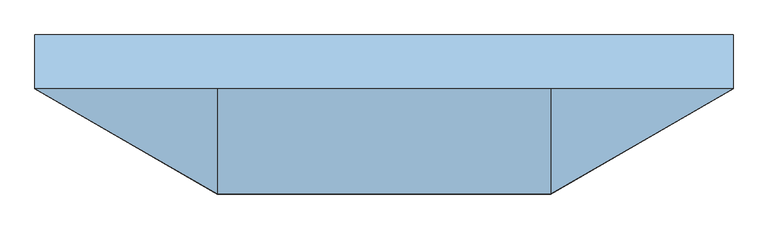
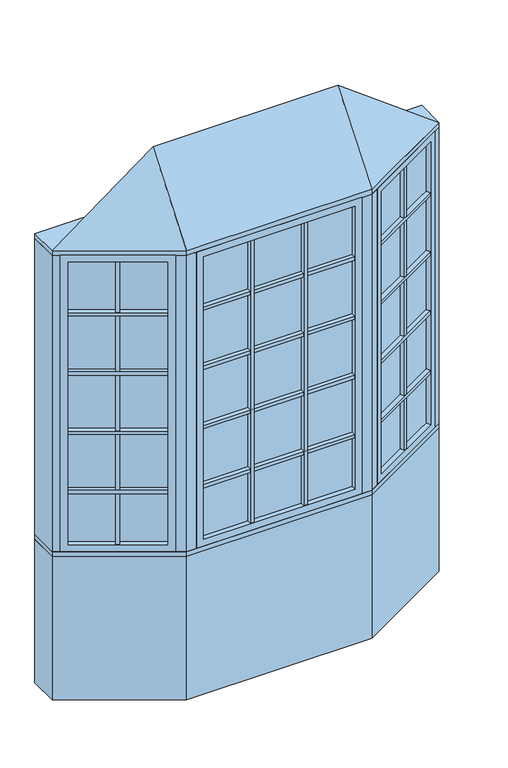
"""IFC4 building model written with IfcOpenShell, lengths in millimetres: window geometry, Pollard_Windows_Tudor Casement Bows and Bays : AML-BAY 30 AFR0516-10-500_GC."""

from ifc_helpers import new_model, si_unit, frame, origin, origin_with_axes, place, context, project, spatial, polyline, outline, extrude, faceted_brep, source, transform, mapped, element, save


def window_4f788b19(model_context):
    return source(origin(), model_context, "Body", "SolidModel", [
        extrude(outline(polyline([(545.7305346, -327.3537343), (534.7305346, -308.3011754), (915.6135794, -88.3982469), (926.6135794, -107.4508058), (545.7305346, -327.3537343)])), frame((0.0, 0.0, 1110.998), z_axis=(0.0, 0.0, 1.0), x_axis=(1.0, 0.0, 0.0)), (0.0, 0.0, 1.0), 18.0),
        extrude(outline(polyline([(532.1905346, -303.9017664), (521.1905346, -284.8492075), (902.0735794, -64.946279), (913.0735794, -83.9988379), (532.1905346, -303.9017664)])), frame((0.0, 0.0, 1110.998), z_axis=(0.0, 0.0, 1.0), x_axis=(1.0, 0.0, 0.0)), (0.0, 0.0, 1.0), 18.0),
        extrude(outline(polyline([(545.7305346, -327.3537343), (534.7305346, -308.3011754), (915.6135794, -88.3982469), (926.6135794, -107.4508058), (545.7305346, -327.3537343)])), frame((0.0, 0.0, 1430.998), z_axis=(0.0, 0.0, 1.0), x_axis=(1.0, 0.0, 0.0)), (0.0, 0.0, 1.0), 18.0),
        extrude(outline(polyline([(532.1905346, -303.9017664), (521.1905346, -284.8492075), (902.0735794, -64.946279), (913.0735794, -83.9988379), (532.1905346, -303.9017664)])), frame((0.0, 0.0, 1430.998), z_axis=(0.0, 0.0, 1.0), x_axis=(1.0, 0.0, 0.0)), (0.0, 0.0, 1.0), 18.0),
        extrude(outline(polyline([(545.7305346, -327.3537343), (534.7305346, -308.3011754), (915.6135794, -88.3982469), (926.6135794, -107.4508058), (545.7305346, -327.3537343)])), frame((0.0, 0.0, 1750.998), z_axis=(0.0, 0.0, 1.0), x_axis=(1.0, 0.0, 0.0)), (0.0, 0.0, 1.0), 18.0),
        extrude(outline(polyline([(532.1905346, -303.9017664), (521.1905346, -284.8492075), (902.0735794, -64.946279), (913.0735794, -83.9988379), (532.1905346, -303.9017664)])), frame((0.0, 0.0, 1750.998), z_axis=(0.0, 0.0, 1.0), x_axis=(1.0, 0.0, 0.0)), (0.0, 0.0, 1.0), 18.0),
        extrude(outline(polyline([(545.7305346, -327.3537343), (534.7305346, -308.3011754), (915.6135794, -88.3982469), (926.6135794, -107.4508058), (545.7305346, -327.3537343)])), frame((0.0, 0.0, 2070.998), z_axis=(0.0, 0.0, 1.0), x_axis=(1.0, 0.0, 0.0)), (0.0, 0.0, 1.0), 18.0),
        extrude(outline(polyline([(532.1905346, -303.9017664), (521.1905346, -284.8492075), (902.0735794, -64.946279), (913.0735794, -83.9988379), (532.1905346, -303.9017664)])), frame((0.0, 0.0, 2070.998), z_axis=(0.0, 0.0, 1.0), x_axis=(1.0, 0.0, 0.0)), (0.0, 0.0, 1.0), 18.0),
        extrude(outline(polyline([(732.9662856, -193.8497112), (743.9662856, -212.9022701), (728.3778284, -221.9022701), (717.3778284, -202.8497112), (732.9662856, -193.8497112)])), frame((0.0, 0.0, 835.8628), z_axis=(0.0, 0.0, 1.0), x_axis=(1.0, 0.0, 0.0)), (0.0, 0.0, 1.0), 1528.2704),
        extrude(outline(polyline([(730.4262856, -189.4503021), (714.8378284, -198.4503021), (703.8378284, -179.3977432), (719.4262856, -170.3977432), (730.4262856, -189.4503021)])), frame((0.0, 0.0, 835.8628), z_axis=(0.0, 0.0, 1.0), x_axis=(1.0, 0.0, 0.0)), (0.0, 0.0, 1.0), 1528.2704),
        extrude(outline(polyline([(926.612102, -82.0482469), (523.7320119, -314.6511754), (521.1920119, -310.2517664), (924.072102, -77.6488379), (926.612102, -82.0482469)])), frame((0.0, 0.0, 823.1628), z_axis=(0.0, 0.0, 1.0), x_axis=(1.0, 0.0, 0.0)), (0.0, 0.0, 1.0), 1553.6704),
        faceted_brep([(915.6135794, -88.3982469, 835.8628), (928.3135794, -110.3952922, 835.8628), (928.3135794, -110.3952922, 2364.1332), (915.6135794, -88.3982469, 2364.1332), (924.072102, -77.6488379, 823.1628), (926.612102, -82.0482469, 823.1628), (926.612102, -82.0482469, 2376.8332), (924.072102, -77.6488379, 2376.8332), (900.3735794, -62.0017926, 835.8628), (913.0735794, -83.9988379, 835.8628), (913.0735794, -83.9988379, 2364.1332), (900.3735794, -62.0017926, 2364.1332), (959.3734073, -92.4628922, 799.998), (931.4334073, -44.0693926, 799.998), (931.4334073, -44.0693926, 2399.998), (959.3734073, -92.4628922, 2399.998), (547.4305346, -330.2982207, 2364.1332), (534.7305346, -308.3011754, 2364.1332), (523.7320119, -314.6511754, 2376.8332), (521.1920119, -310.2517664, 2376.8332), (532.1905346, -303.9017664, 2364.1332), (519.4905346, -281.9047211, 2364.1332), (488.4307067, -299.8371211, 2399.998), (516.3707067, -348.2306207, 2399.998), (547.4305346, -330.2982207, 835.8628), (534.7305346, -308.3011754, 835.8628), (523.7320119, -314.6511754, 823.1628), (521.1920119, -310.2517664, 823.1628), (532.1905346, -303.9017664, 835.8628), (519.4905346, -281.9047211, 835.8628), (488.4307067, -299.8371211, 799.998), (516.3707067, -348.2306207, 799.998)], [[[0, 1, 2, 3]], [[4, 5, 6, 7]], [[8, 9, 10, 11]], [[12, 13, 14, 15]], [[3, 2, 16, 17]], [[7, 6, 18, 19]], [[11, 10, 20, 21]], [[15, 14, 22, 23]], [[17, 16, 24, 25]], [[19, 18, 26, 27]], [[21, 20, 28, 29]], [[23, 22, 30, 31]], [[25, 24, 1, 0]], [[5, 26, 18, 6], [3, 17, 25, 0]], [[27, 26, 5, 4]], [[7, 19, 27, 4], [9, 28, 20, 10]], [[29, 28, 9, 8]], [[13, 30, 22, 14], [11, 21, 29, 8]], [[31, 30, 13, 12]], [[15, 23, 31, 12], [1, 24, 16, 2]]]),
        extrude(outline(polyline([(145.3016788, -347.8306207), (145.3016788, -369.8306207), (127.3016788, -369.8306207), (127.3016788, -347.8306207), (145.3016788, -347.8306207)])), frame((0.0, 0.0, 835.8628), z_axis=(0.0, 0.0, 1.0), x_axis=(1.0, 0.0, 0.0)), (0.0, 0.0, 1.0), 1528.2704),
        extrude(outline(polyline([(145.3016788, -342.7506207), (127.3016788, -342.7506207), (127.3016788, -320.7506207), (145.3016788, -320.7506207), (145.3016788, -342.7506207)])), frame((0.0, 0.0, 835.8628), z_axis=(0.0, 0.0, 1.0), x_axis=(1.0, 0.0, 0.0)), (0.0, 0.0, 1.0), 1528.2704),
        extrude(outline(polyline([(-127.3016788, -347.8306207), (-127.3016788, -369.8306207), (-145.3016788, -369.8306207), (-145.3016788, -347.8306207), (-127.3016788, -347.8306207)])), frame((0.0, 0.0, 835.8628), z_axis=(0.0, 0.0, 1.0), x_axis=(1.0, 0.0, 0.0)), (0.0, 0.0, 1.0), 1528.2704),
        extrude(outline(polyline([(-127.3016788, -342.7506207), (-145.3016788, -342.7506207), (-145.3016788, -320.7506207), (-127.3016788, -320.7506207), (-127.3016788, -342.7506207)])), frame((0.0, 0.0, 835.8628), z_axis=(0.0, 0.0, 1.0), x_axis=(1.0, 0.0, 0.0)), (0.0, 0.0, 1.0), 1528.2704),
        extrude(outline(polyline([(-387.2046365, -369.8306207), (-387.2046365, -347.8306207), (387.2046365, -347.8306207), (387.2046365, -369.8306207), (-387.2046365, -369.8306207)])), frame((0.0, 0.0, 1110.998), z_axis=(0.0, 0.0, 1.0), x_axis=(1.0, 0.0, 0.0)), (0.0, 0.0, 1.0), 18.0),
        extrude(outline(polyline([(-387.2046365, -342.7506207), (-387.2046365, -320.7506207), (387.2046365, -320.7506207), (387.2046365, -342.7506207), (-387.2046365, -342.7506207)])), frame((0.0, 0.0, 1110.998), z_axis=(0.0, 0.0, 1.0), x_axis=(1.0, 0.0, 0.0)), (0.0, 0.0, 1.0), 18.0),
        extrude(outline(polyline([(-387.2046365, -369.8306207), (-387.2046365, -347.8306207), (387.2046365, -347.8306207), (387.2046365, -369.8306207), (-387.2046365, -369.8306207)])), frame((0.0, 0.0, 1430.998), z_axis=(0.0, 0.0, 1.0), x_axis=(1.0, 0.0, 0.0)), (0.0, 0.0, 1.0), 18.0),
        extrude(outline(polyline([(-387.2046365, -342.7506207), (-387.2046365, -320.7506207), (387.2046365, -320.7506207), (387.2046365, -342.7506207), (-387.2046365, -342.7506207)])), frame((0.0, 0.0, 1430.998), z_axis=(0.0, 0.0, 1.0), x_axis=(1.0, 0.0, 0.0)), (0.0, 0.0, 1.0), 18.0),
        extrude(outline(polyline([(-387.2046365, -369.8306207), (-387.2046365, -347.8306207), (387.2046365, -347.8306207), (387.2046365, -369.8306207), (-387.2046365, -369.8306207)])), frame((0.0, 0.0, 1750.998), z_axis=(0.0, 0.0, 1.0), x_axis=(1.0, 0.0, 0.0)), (0.0, 0.0, 1.0), 18.0),
        extrude(outline(polyline([(-387.2046365, -342.7506207), (-387.2046365, -320.7506207), (387.2046365, -320.7506207), (387.2046365, -342.7506207), (-387.2046365, -342.7506207)])), frame((0.0, 0.0, 1750.998), z_axis=(0.0, 0.0, 1.0), x_axis=(1.0, 0.0, 0.0)), (0.0, 0.0, 1.0), 18.0),
        extrude(outline(polyline([(-926.6135794, -107.4508058), (-915.6135794, -88.3982469), (-534.7305346, -308.3011754), (-545.7305346, -327.3537343), (-926.6135794, -107.4508058)])), frame((0.0, 0.0, 1110.998), z_axis=(0.0, 0.0, 1.0), x_axis=(1.0, 0.0, 0.0)), (0.0, 0.0, 1.0), 18.0),
        extrude(outline(polyline([(-913.0735794, -83.9988379), (-902.0735794, -64.946279), (-521.1905346, -284.8492075), (-532.1905346, -303.9017664), (-913.0735794, -83.9988379)])), frame((0.0, 0.0, 1110.998), z_axis=(0.0, 0.0, 1.0), x_axis=(1.0, 0.0, 0.0)), (0.0, 0.0, 1.0), 18.0),
        extrude(outline(polyline([(-926.6135794, -107.4508058), (-915.6135794, -88.3982469), (-534.7305346, -308.3011754), (-545.7305346, -327.3537343), (-926.6135794, -107.4508058)])), frame((0.0, 0.0, 1430.998), z_axis=(0.0, 0.0, 1.0), x_axis=(1.0, 0.0, 0.0)), (0.0, 0.0, 1.0), 18.0),
        extrude(outline(polyline([(-913.0735794, -83.9988379), (-902.0735794, -64.946279), (-521.1905346, -284.8492075), (-532.1905346, -303.9017664), (-913.0735794, -83.9988379)])), frame((0.0, 0.0, 1430.998), z_axis=(0.0, 0.0, 1.0), x_axis=(1.0, 0.0, 0.0)), (0.0, 0.0, 1.0), 18.0),
        extrude(outline(polyline([(-926.6135794, -107.4508058), (-915.6135794, -88.3982469), (-534.7305346, -308.3011754), (-545.7305346, -327.3537343), (-926.6135794, -107.4508058)])), frame((0.0, 0.0, 1750.998), z_axis=(0.0, 0.0, 1.0), x_axis=(1.0, 0.0, 0.0)), (0.0, 0.0, 1.0), 18.0),
        extrude(outline(polyline([(-913.0735794, -83.9988379), (-902.0735794, -64.946279), (-521.1905346, -284.8492075), (-532.1905346, -303.9017664), (-913.0735794, -83.9988379)])), frame((0.0, 0.0, 1750.998), z_axis=(0.0, 0.0, 1.0), x_axis=(1.0, 0.0, 0.0)), (0.0, 0.0, 1.0), 18.0),
        extrude(outline(polyline([(-926.6135794, -107.4508058), (-915.6135794, -88.3982469), (-534.7305346, -308.3011754), (-545.7305346, -327.3537343), (-926.6135794, -107.4508058)])), frame((0.0, 0.0, 2070.998), z_axis=(0.0, 0.0, 1.0), x_axis=(1.0, 0.0, 0.0)), (0.0, 0.0, 1.0), 18.0),
        extrude(outline(polyline([(-913.0735794, -83.9988379), (-902.0735794, -64.946279), (-521.1905346, -284.8492075), (-532.1905346, -303.9017664), (-913.0735794, -83.9988379)])), frame((0.0, 0.0, 2070.998), z_axis=(0.0, 0.0, 1.0), x_axis=(1.0, 0.0, 0.0)), (0.0, 0.0, 1.0), 18.0),
        extrude(outline(polyline([(-387.2046365, -369.8306207), (-387.2046365, -347.8306207), (387.2046365, -347.8306207), (387.2046365, -369.8306207), (-387.2046365, -369.8306207)])), frame((0.0, 0.0, 2070.998), z_axis=(0.0, 0.0, 1.0), x_axis=(1.0, 0.0, 0.0)), (0.0, 0.0, 1.0), 18.0),
        extrude(outline(polyline([(-387.2046365, -342.7506207), (-387.2046365, -320.7506207), (387.2046365, -320.7506207), (387.2046365, -342.7506207), (-387.2046365, -342.7506207)])), frame((0.0, 0.0, 2070.998), z_axis=(0.0, 0.0, 1.0), x_axis=(1.0, 0.0, 0.0)), (0.0, 0.0, 1.0), 18.0),
        extrude(outline(polyline([(-717.3778284, -202.8497112), (-728.3778284, -221.9022701), (-743.9662856, -212.9022701), (-732.9662856, -193.8497112), (-717.3778284, -202.8497112)])), frame((0.0, 0.0, 835.8628), z_axis=(0.0, 0.0, 1.0), x_axis=(1.0, 0.0, 0.0)), (0.0, 0.0, 1.0), 1528.2704),
        extrude(outline(polyline([(-714.8378284, -198.4503021), (-730.4262856, -189.4503021), (-719.4262856, -170.3977432), (-703.8378284, -179.3977432), (-714.8378284, -198.4503021)])), frame((0.0, 0.0, 835.8628), z_axis=(0.0, 0.0, 1.0), x_axis=(1.0, 0.0, 0.0)), (0.0, 0.0, 1.0), 1528.2704),
        extrude(outline(polyline([(-523.7320119, -314.6511754), (-926.612102, -82.0482469), (-924.072102, -77.6488379), (-521.1920119, -310.2517664), (-523.7320119, -314.6511754)])), frame((0.0, 0.0, 823.1628), z_axis=(0.0, 0.0, 1.0), x_axis=(1.0, 0.0, 0.0)), (0.0, 0.0, 1.0), 1553.6704),
        faceted_brep([(-532.1905346, -303.9017664, 2364.1332), (-519.4905346, -281.9047211, 2364.1332), (-519.4905346, -281.9047211, 835.8628), (-532.1905346, -303.9017664, 835.8628), (-523.7320119, -314.6511754, 2376.8332), (-521.1920119, -310.2517664, 2376.8332), (-521.1920119, -310.2517664, 823.1628), (-523.7320119, -314.6511754, 823.1628), (-547.4305346, -330.2982207, 2364.1332), (-534.7305346, -308.3011754, 2364.1332), (-534.7305346, -308.3011754, 835.8628), (-547.4305346, -330.2982207, 835.8628), (-488.4307067, -299.8371211, 2399.998), (-516.3707067, -348.2306207, 2399.998), (-516.3707067, -348.2306207, 799.998), (-488.4307067, -299.8371211, 799.998), (-900.3735794, -62.0017926, 835.8628), (-913.0735794, -83.9988379, 835.8628), (-924.072102, -77.6488379, 823.1628), (-926.612102, -82.0482469, 823.1628), (-915.6135794, -88.3982469, 835.8628), (-928.3135794, -110.3952922, 835.8628), (-959.3734073, -92.4628922, 799.998), (-931.4334073, -44.0693926, 799.998), (-900.3735794, -62.0017926, 2364.1332), (-913.0735794, -83.9988379, 2364.1332), (-924.072102, -77.6488379, 2376.8332), (-926.612102, -82.0482469, 2376.8332), (-915.6135794, -88.3982469, 2364.1332), (-928.3135794, -110.3952922, 2364.1332), (-959.3734073, -92.4628922, 2399.998), (-931.4334073, -44.0693926, 2399.998)], [[[0, 1, 2, 3]], [[4, 5, 6, 7]], [[8, 9, 10, 11]], [[12, 13, 14, 15]], [[3, 2, 16, 17]], [[7, 6, 18, 19]], [[11, 10, 20, 21]], [[15, 14, 22, 23]], [[17, 16, 24, 25]], [[19, 18, 26, 27]], [[21, 20, 28, 29]], [[23, 22, 30, 31]], [[15, 23, 31, 12], [1, 24, 16, 2]], [[25, 24, 1, 0]], [[5, 26, 18, 6], [3, 17, 25, 0]], [[27, 26, 5, 4]], [[7, 19, 27, 4], [9, 28, 20, 10]], [[29, 28, 9, 8]], [[13, 30, 22, 14], [11, 21, 29, 8]], [[31, 30, 13, 12]]]),
        extrude(outline(polyline([(399.9046365, -347.8306207), (-399.9046365, -347.8306207), (-399.9046365, -342.7506207), (399.9046365, -342.7506207), (399.9046365, -347.8306207)])), frame((0.0, 0.0, 823.1628), z_axis=(0.0, 0.0, 1.0), x_axis=(1.0, 0.0, 0.0)), (0.0, 0.0, 1.0), 1553.6704),
        faceted_brep([(387.2046365, -347.8306207, 835.8628), (387.2046365, -373.2306207, 835.8628), (387.2046365, -373.2306207, 2364.1332), (387.2046365, -347.8306207, 2364.1332), (399.9046365, -342.7506207, 823.1628), (399.9046365, -347.8306207, 823.1628), (399.9046365, -347.8306207, 2376.8332), (399.9046365, -342.7506207, 2376.8332), (387.2046365, -317.3506207, 835.8628), (387.2046365, -342.7506207, 835.8628), (387.2046365, -342.7506207, 2364.1332), (387.2046365, -317.3506207, 2364.1332), (423.0694365, -373.2306207, 799.998), (423.0694365, -317.3506207, 799.998), (423.0694365, -317.3506207, 2399.998), (423.0694365, -373.2306207, 2399.998), (-387.2046365, -373.2306207, 2364.1332), (-387.2046365, -347.8306207, 2364.1332), (-399.9046365, -347.8306207, 2376.8332), (-399.9046365, -342.7506207, 2376.8332), (-387.2046365, -342.7506207, 2364.1332), (-387.2046365, -317.3506207, 2364.1332), (-423.0694365, -317.3506207, 2399.998), (-423.0694365, -373.2306207, 2399.998), (-387.2046365, -373.2306207, 835.8628), (-387.2046365, -347.8306207, 835.8628), (-399.9046365, -347.8306207, 823.1628), (-399.9046365, -342.7506207, 823.1628), (-387.2046365, -342.7506207, 835.8628), (-387.2046365, -317.3506207, 835.8628), (-423.0694365, -317.3506207, 799.998), (-423.0694365, -373.2306207, 799.998)], [[[0, 1, 2, 3]], [[4, 5, 6, 7]], [[8, 9, 10, 11]], [[12, 13, 14, 15]], [[3, 2, 16, 17]], [[7, 6, 18, 19]], [[11, 10, 20, 21]], [[15, 14, 22, 23]], [[17, 16, 24, 25]], [[19, 18, 26, 27]], [[21, 20, 28, 29]], [[23, 22, 30, 31]], [[15, 23, 31, 12], [1, 24, 16, 2]], [[25, 24, 1, 0]], [[5, 26, 18, 6], [3, 17, 25, 0]], [[27, 26, 5, 4]], [[7, 19, 27, 4], [9, 28, 20, 10]], [[29, 28, 9, 8]], [[13, 30, 22, 14], [11, 21, 29, 8]], [[31, 30, 13, 12]]]),
        faceted_brep([(990.0, -74.7806207, 2425.398), (473.0694365, -373.2306207, 2425.398), (-473.0694365, -373.2306207, 2425.398), (-990.0, -74.7806207, 2425.398), (-473.0694365, -74.7806207, 2806.398), (473.0694365, -74.7806207, 2806.398)], [[[0, 1, 2, 3]], [[3, 2, 4]], [[2, 1, 5, 4]], [[1, 0, 5]], [[0, 3, 4, 5]]]),
        extrude(outline(polyline([(-990.0, 77.6193793), (990.0, 77.6193793), (990.0, -74.7806207), (473.0694365, -373.2306207), (-473.0694365, -373.2306207), (-990.0, -74.7806207), (-990.0, 77.6193793)])), frame((0.0, 0.0, 2399.998), z_axis=(0.0, 0.0, 1.0), x_axis=(1.0, 0.0, 0.0)), (0.0, 0.0, 1.0), 25.4),
        extrude(outline(polyline([(-990.0, -74.7806207), (-990.0, 77.6193793), (-949.1645431, 77.6193793), (-949.1645431, -74.7806207), (-959.3734073, -92.4628922), (-990.0, -74.7806207)])), frame((0.0, 0.0, 799.998), z_axis=(0.0, 0.0, 1.0), x_axis=(1.0, 0.0, 0.0)), (0.0, 0.0, 1.0), 1600.0),
        extrude(outline(polyline([(990.0, 77.6193793), (990.0, -74.7806207), (959.3734073, -92.4628922), (949.1645431, -74.7806207), (949.1645431, 77.6193793), (990.0, 77.6193793)])), frame((0.0, 0.0, 799.998), z_axis=(0.0, 0.0, 1.0), x_axis=(1.0, 0.0, 0.0)), (0.0, 0.0, 1.0), 1600.0),
        extrude(outline(polyline([(473.0694365, -373.2306207), (423.0694365, -373.2306207), (423.0694365, -323.2306207), (459.6719769, -323.2306207), (491.3707067, -304.9293505), (516.3707067, -348.2306207), (473.0694365, -373.2306207)])), frame((0.0, 0.0, 799.998), z_axis=(0.0, 0.0, 1.0), x_axis=(1.0, 0.0, 0.0)), (0.0, 0.0, 1.0), 1600.0),
        extrude(outline(polyline([(-473.0694365, -373.2306207), (-516.3707067, -348.2306207), (-491.3707067, -304.9293505), (-459.6719769, -323.2306207), (-423.0694365, -323.2306207), (-423.0694365, -373.2306207), (-473.0694365, -373.2306207)])), frame((0.0, 0.0, 799.998), z_axis=(0.0, 0.0, 1.0), x_axis=(1.0, 0.0, 0.0)), (0.0, 0.0, 1.0), 1600.0),
        extrude(outline(polyline([(-473.0694365, -373.2306207), (-990.0, -74.7806207), (-990.0, 77.6193793), (-949.1645431, 77.6193793), (-432.2339796, -220.8306207), (432.2339796, -220.8306207), (949.1645431, 77.6193793), (990.0, 77.6193793), (990.0, -74.7806207), (473.0694365, -373.2306207), (-473.0694365, -373.2306207)])), frame((0.0, 0.0, 774.598), z_axis=(0.0, 0.0, 1.0), x_axis=(1.0, 0.0, 0.0)), (0.0, 0.0, 1.0), 25.4),
        extrude(outline(polyline([(-990.0, -74.7806207), (-990.0, 77.6193793), (-949.1645431, 77.6193793), (-432.2339796, -220.8306207), (432.2339796, -220.8306207), (949.1645431, 77.6193793), (990.0, 77.6193793), (990.0, -74.7806207), (473.0694365, -373.2306207), (-473.0694365, -373.2306207), (-990.0, -74.7806207)])), origin_with_axes(), (0.0, 0.0, 1.0), 774.598),
    ])


if __name__ == "__main__":
    model = new_model("IFC4")
    model_context = context("Model", 3, world=origin())
    ifc_project = project(units=[si_unit("LENGTHUNIT", "METRE", prefix="MILLI")], contexts=[model_context])
    site = spatial("IfcSite", under=ifc_project)
    building = spatial("IfcBuilding", under=site)
    placement = place(None, origin())
    window_shape = window_4f788b19(model_context)
    element("IfcWindow", 1, ObjectType="Pollard_Windows_Tudor Casement Bows and Bays : AML-BAY 30 AFR0516-10-500_GC", at=placement, inside=building, context=model_context, shape_type="MappedRepresentation", body=[
        mapped(window_shape, transform((0.0, 0.0, 0.0), x_axis=(1.0, 0.0, 0.0), y_axis=(0.0, 1.0, 0.0), z_axis=(0.0, 0.0, 1.0))),
    ])
    save(model, "model.ifc")
